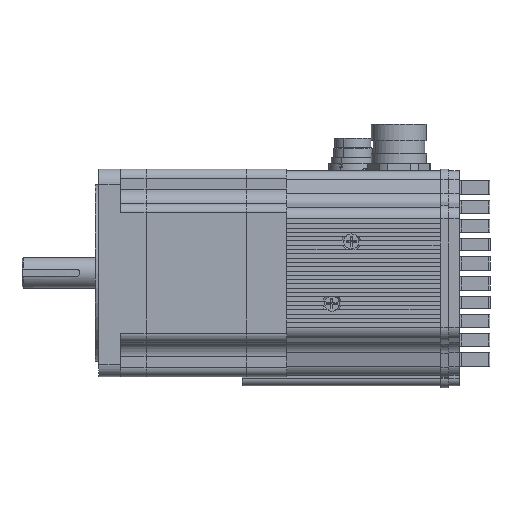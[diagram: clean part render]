
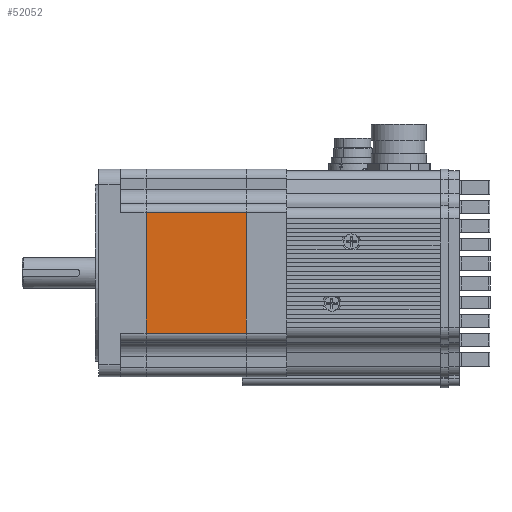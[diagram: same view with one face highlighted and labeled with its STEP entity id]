
A CAD part, left-side view. The second image highlights one B-rep face of the part: STEP entity #52052.
In plain terms, the highlighted planar face has unit normal (-1, 0, 0) as drawn and (1, 0, 0) by its records, which use the part's own axes.
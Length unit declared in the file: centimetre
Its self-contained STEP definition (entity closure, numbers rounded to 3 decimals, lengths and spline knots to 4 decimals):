
#5907=VECTOR('',#82204,1.);
#5908=VECTOR('',#82208,1.);
#5909=VECTOR('',#82209,1.);
#5910=VECTOR('',#82210,1.);
#10416=LINE('',#70518,#5907);
#10417=LINE('',#70522,#5908);
#10418=LINE('',#70524,#5909);
#10419=LINE('',#70526,#5910);
#11823=PLANE('',#56238);
#17517=VERTEX_POINT('',#70517);
#17518=VERTEX_POINT('',#70519);
#17519=VERTEX_POINT('',#70523);
#17520=VERTEX_POINT('',#70525);
#27171=EDGE_CURVE('',#17518,#17517,#10416,.T.);
#27173=EDGE_CURVE('',#17517,#17519,#10417,.T.);
#27174=EDGE_CURVE('',#17520,#17519,#10418,.T.);
#27175=EDGE_CURVE('',#17520,#17518,#10419,.T.);
#42225=ORIENTED_EDGE('',*,*,#27173,.T.);
#42226=ORIENTED_EDGE('',*,*,#27174,.F.);
#42227=ORIENTED_EDGE('',*,*,#27175,.T.);
#42228=ORIENTED_EDGE('',*,*,#27171,.T.);
#45808=EDGE_LOOP('',(#42225,#42226,#42227,#42228));
#49166=FACE_BOUND('',#45808,.T.);
#52052=ADVANCED_FACE('',(#49166),#11823,.T.);
#56238=AXIS2_PLACEMENT_3D('',#70521,#82207,$);
#70517=CARTESIAN_POINT('',(4.2926,-2.4892,-5.0292));
#70518=CARTESIAN_POINT('',(4.2926,-2.4892,-0.889));
#70519=CARTESIAN_POINT('',(4.2926,-2.4892,-0.889));
#70521=CARTESIAN_POINT('',(4.2926,0.,-0.889));
#70522=CARTESIAN_POINT('',(4.2926,2.4892,-5.0292));
#70523=CARTESIAN_POINT('',(4.2926,2.4892,-5.0292));
#70524=CARTESIAN_POINT('',(4.2926,2.4892,-0.889));
#70525=CARTESIAN_POINT('',(4.2926,2.4892,-0.889));
#70526=CARTESIAN_POINT('',(4.2926,2.4892,-0.889));
#82204=DIRECTION('',(0.,0.,-1.));
#82207=DIRECTION('',(1.,0.,0.));
#82208=DIRECTION('',(0.,1.,0.));
#82209=DIRECTION('',(0.,0.,-1.));
#82210=DIRECTION('',(0.,-1.,0.));
